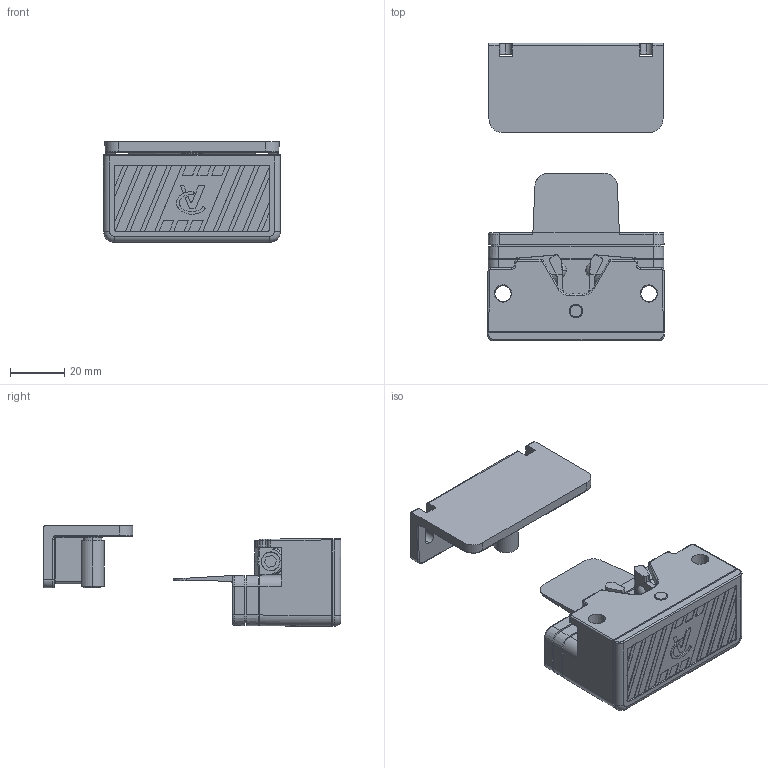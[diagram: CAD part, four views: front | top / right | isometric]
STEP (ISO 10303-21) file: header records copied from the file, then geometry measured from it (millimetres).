
FILE_DESCRIPTION (( 'STEP AP203' ), '1' );
FILE_NAME ('013.100.070.STEP', '2023-05-12T06:48:02', ( '' ), ( '' ), 'SwSTEP 2.0', 'SolidWorks 2021', '' );
FILE_SCHEMA (( 'CONFIG_CONTROL_DESIGN' ));
Length unit declared in the file: millimetre
Products named in the file (13): 013.100.070K; 013.100.070H; 013.100.070B; 013.100.070D; 013.100.070A; 013.100.070E; SFERA06; 013.100.070I; 013.100.070F; 013.100.070G; 013.100.070 PARTE MOBILE; 0520UNI8735; 013.100.070
Assembly tree (15 placements, depth 3):
  013.100.070
    013.100.070A
    013.100.070 PARTE MOBILE
      013.100.070B
      SFERA06  x2
      013.100.070G  x2
      0520UNI8735
      013.100.070F  x2
    013.100.070H
    013.100.070I
    013.100.070D
    013.100.070K
    013.100.070E
Bounding box: 65.5 x 110.12 x 37.29 mm (x, y, z)
Volume: 61992.4 mm3; surface area: 50529.3 mm2
Topology: 14 solids, 16 shells, 1078 faces, 2792 edges, 1779 vertices
Faces by surface type: plane 492, cone 228, cylinder 205, bspline 100, torus 39, sphere 14
Entity records: 38682 total; most frequent: CARTESIAN_POINT 12630, ORIENTED_EDGE 5408, DIRECTION 4798, EDGE_CURVE 2704, VERTEX_POINT 1731, AXIS2_PLACEMENT_3D 1645, LINE 1508, VECTOR 1508
